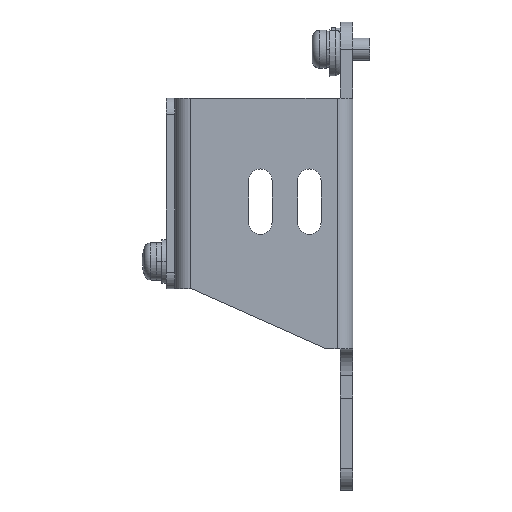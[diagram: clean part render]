
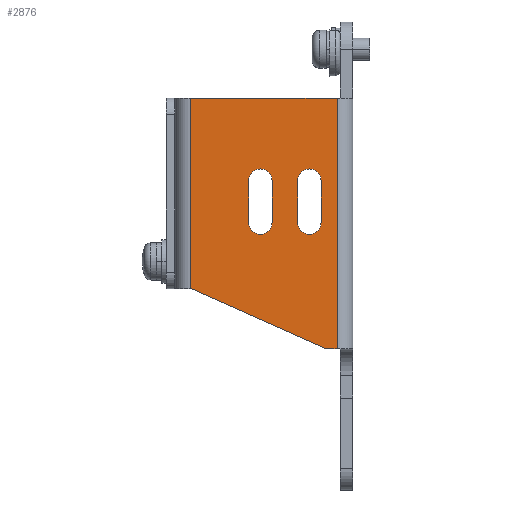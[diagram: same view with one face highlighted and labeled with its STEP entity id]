
A CAD part, left-side view. The second image highlights one B-rep face of the part: STEP entity #2876.
In plain terms, the highlighted planar face has unit normal (-1, 0, 0).
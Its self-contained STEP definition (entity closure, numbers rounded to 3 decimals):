
#579=DIRECTION('',(0.,0.,1.));
#580=VECTOR('',#579,46.);
#581=CARTESIAN_POINT('',(-33.,2.9,26.));
#582=LINE('',#581,#580);
#597=DIRECTION('',(0.,-1.,0.));
#598=VECTOR('',#597,2.1);
#599=CARTESIAN_POINT('',(-33.,5.,26.));
#600=LINE('',#599,#598);
#601=DIRECTION('',(0.,-0.914,-0.407));
#602=VECTOR('',#601,27.039);
#603=CARTESIAN_POINT('',(-33.,29.7,37.));
#604=LINE('',#603,#602);
#605=DIRECTION('',(0.,1.,0.));
#606=VECTOR('',#605,0.1);
#607=CARTESIAN_POINT('',(-33.,29.7,37.));
#608=LINE('',#607,#606);
#609=CARTESIAN_POINT('',(-33.,8.,49.15));
#610=DIRECTION('',(-1.,0.,0.));
#611=DIRECTION('',(0.,1.,0.));
#612=AXIS2_PLACEMENT_3D('',#609,#610,#611);
#614=DIRECTION('',(0.,0.,-1.));
#615=VECTOR('',#614,7.7);
#616=CARTESIAN_POINT('',(-33.,5.85,56.85));
#617=LINE('',#616,#615);
#618=CARTESIAN_POINT('',(-33.,8.,56.85));
#619=DIRECTION('',(-1.,0.,0.));
#620=DIRECTION('',(0.,-1.,0.));
#621=AXIS2_PLACEMENT_3D('',#618,#619,#620);
#623=DIRECTION('',(0.,0.,1.));
#624=VECTOR('',#623,7.7);
#625=CARTESIAN_POINT('',(-33.,10.15,49.15));
#626=LINE('',#625,#624);
#627=CARTESIAN_POINT('',(-33.,17.,49.15));
#628=DIRECTION('',(-1.,0.,0.));
#629=DIRECTION('',(0.,1.,0.));
#630=AXIS2_PLACEMENT_3D('',#627,#628,#629);
#632=DIRECTION('',(0.,0.,-1.));
#633=VECTOR('',#632,7.7);
#634=CARTESIAN_POINT('',(-33.,14.85,56.85));
#635=LINE('',#634,#633);
#636=CARTESIAN_POINT('',(-33.,17.,56.85));
#637=DIRECTION('',(-1.,0.,0.));
#638=DIRECTION('',(0.,-1.,0.));
#639=AXIS2_PLACEMENT_3D('',#636,#637,#638);
#641=DIRECTION('',(0.,0.,1.));
#642=VECTOR('',#641,7.7);
#643=CARTESIAN_POINT('',(-33.,19.15,49.15));
#644=LINE('',#643,#642);
#645=DIRECTION('',(0.,1.,0.));
#646=VECTOR('',#645,26.9);
#647=CARTESIAN_POINT('',(-33.,2.9,72.));
#648=LINE('',#647,#646);
#670=DIRECTION('',(0.,0.,1.));
#671=VECTOR('',#670,35.);
#672=CARTESIAN_POINT('',(-33.,29.8,37.));
#673=LINE('',#672,#671);
#1757=CARTESIAN_POINT('',(-33.,29.7,37.));
#1759=VERTEX_POINT('',#1757);
#1805=CARTESIAN_POINT('',(-33.,10.15,49.15));
#1806=CARTESIAN_POINT('',(-33.,5.85,49.15));
#1807=VERTEX_POINT('',#1805);
#1808=VERTEX_POINT('',#1806);
#1809=CARTESIAN_POINT('',(-33.,10.15,56.85));
#1810=VERTEX_POINT('',#1809);
#1811=CARTESIAN_POINT('',(-33.,5.85,56.85));
#1812=VERTEX_POINT('',#1811);
#1821=CARTESIAN_POINT('',(-33.,19.15,49.15));
#1822=CARTESIAN_POINT('',(-33.,14.85,49.15));
#1823=VERTEX_POINT('',#1821);
#1824=VERTEX_POINT('',#1822);
#1825=CARTESIAN_POINT('',(-33.,19.15,56.85));
#1826=VERTEX_POINT('',#1825);
#1827=CARTESIAN_POINT('',(-33.,14.85,56.85));
#1828=VERTEX_POINT('',#1827);
#1869=CARTESIAN_POINT('',(-33.,5.,26.));
#1870=CARTESIAN_POINT('',(-33.,2.9,26.));
#1871=VERTEX_POINT('',#1869);
#1872=VERTEX_POINT('',#1870);
#1885=CARTESIAN_POINT('',(-33.,2.9,72.));
#1886=VERTEX_POINT('',#1885);
#1925=CARTESIAN_POINT('',(-33.,29.8,72.));
#1926=VERTEX_POINT('',#1925);
#1927=CARTESIAN_POINT('',(-33.,29.8,37.));
#1928=VERTEX_POINT('',#1927);
#2838=CARTESIAN_POINT('',(-33.,0.,40.256));
#2839=DIRECTION('',(-1.,0.,0.));
#2840=DIRECTION('',(0.,0.,1.));
#2841=AXIS2_PLACEMENT_3D('',#2838,#2839,#2840);
#2842=PLANE('',#2841);
#2844=ORIENTED_EDGE('',*,*,#2843,.F.);
#2845=ORIENTED_EDGE('',*,*,#2829,.F.);
#2847=ORIENTED_EDGE('',*,*,#2846,.F.);
#2849=ORIENTED_EDGE('',*,*,#2848,.F.);
#2851=ORIENTED_EDGE('',*,*,#2850,.T.);
#2853=ORIENTED_EDGE('',*,*,#2852,.T.);
#2854=EDGE_LOOP('',(#2844,#2845,#2847,#2849,#2851,#2853));
#2855=FACE_OUTER_BOUND('',#2854,.F.);
#2857=ORIENTED_EDGE('',*,*,#2856,.T.);
#2859=ORIENTED_EDGE('',*,*,#2858,.F.);
#2861=ORIENTED_EDGE('',*,*,#2860,.T.);
#2863=ORIENTED_EDGE('',*,*,#2862,.F.);
#2864=EDGE_LOOP('',(#2857,#2859,#2861,#2863));
#2865=FACE_BOUND('',#2864,.F.);
#2867=ORIENTED_EDGE('',*,*,#2866,.T.);
#2869=ORIENTED_EDGE('',*,*,#2868,.F.);
#2871=ORIENTED_EDGE('',*,*,#2870,.T.);
#2873=ORIENTED_EDGE('',*,*,#2872,.F.);
#2874=EDGE_LOOP('',(#2867,#2869,#2871,#2873));
#2875=FACE_BOUND('',#2874,.F.);
#2876=ADVANCED_FACE('',(#2855,#2865,#2875),#2842,.T.);
#613=CIRCLE('',#612,2.15);
#622=CIRCLE('',#621,2.15);
#631=CIRCLE('',#630,2.15);
#640=CIRCLE('',#639,2.15);
#2829=EDGE_CURVE('',#1872,#1886,#582,.T.);
#2843=EDGE_CURVE('',#1886,#1926,#648,.T.);
#2846=EDGE_CURVE('',#1871,#1872,#600,.T.);
#2848=EDGE_CURVE('',#1759,#1871,#604,.T.);
#2850=EDGE_CURVE('',#1759,#1928,#608,.T.);
#2852=EDGE_CURVE('',#1928,#1926,#673,.T.);
#2856=EDGE_CURVE('',#1807,#1808,#613,.T.);
#2858=EDGE_CURVE('',#1812,#1808,#617,.T.);
#2860=EDGE_CURVE('',#1812,#1810,#622,.T.);
#2862=EDGE_CURVE('',#1807,#1810,#626,.T.);
#2866=EDGE_CURVE('',#1823,#1824,#631,.T.);
#2868=EDGE_CURVE('',#1828,#1824,#635,.T.);
#2870=EDGE_CURVE('',#1828,#1826,#640,.T.);
#2872=EDGE_CURVE('',#1823,#1826,#644,.T.);
